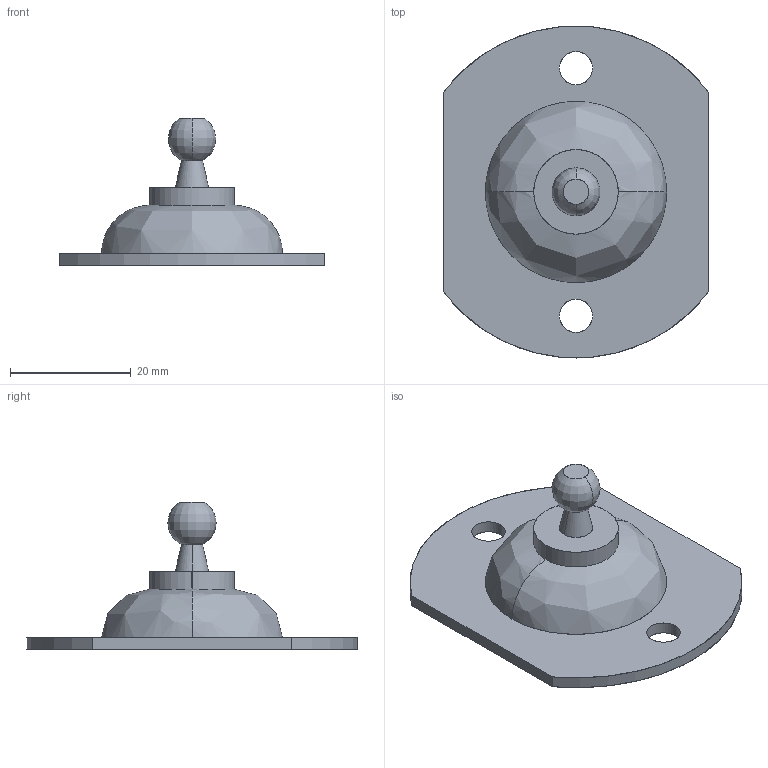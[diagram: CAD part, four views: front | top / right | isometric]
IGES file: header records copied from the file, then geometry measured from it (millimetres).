
Start section: SolidWorks IGES file using analytic representation for surfaces
Bounding box: 44 x 55 x 24.4 mm (x, y, z)
Surface area: 5689.6 mm2 (no closed solid volume)
Topology: 0 solids, 0 shells, 25 faces, 536 edges, 536 vertices
Faces by surface type: bspline 13, revolution 12
